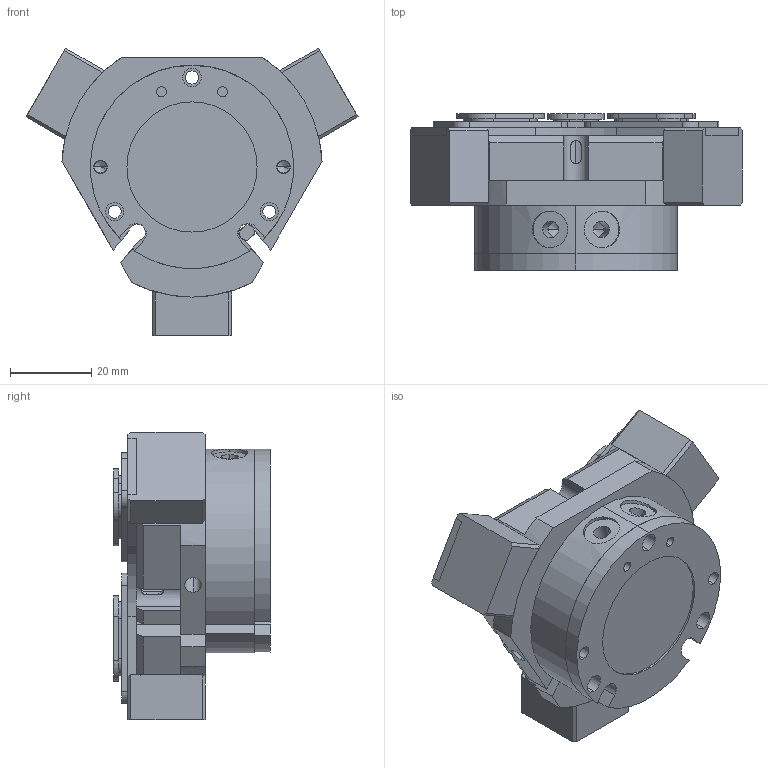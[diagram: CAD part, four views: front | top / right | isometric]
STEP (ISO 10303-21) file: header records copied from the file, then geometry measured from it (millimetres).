
FILE_DESCRIPTION (( 'STEP AP214' ), '1' );
FILE_NAME ('FCT 50A-1-SD.STEP', '2021-09-16T00:27:07', ( 'DEEP' ), ( 'Microsoft' ), 'SwSTEP 2.0', 'SolidWorks 2016', '' );
FILE_SCHEMA (( 'AUTOMOTIVE_DESIGN' ));
Length unit declared in the file: millimetre
Products named in the file (26): FCT 50A-1-002; FCT 50A-1-SD-004; FCT 50A-1-001; FCT 50A-1-SD-003; FCT 50A-1-003; FCT 50A-1-SD; FCT 50A-1-SD-002; FCT 50A-1-SD-001; FCT 50A-1-004
Assembly tree (17 placements, depth 3):
  FCT 50A-1-002
  FCT 50A-1-002
  FCT 50A-1-SD-004
  FCT 50A-1-001
  FCT 50A-1-SD-003
Bounding box: 81.63 x 38.5 x 70.69 mm (x, y, z)
Volume: 82921.5 mm3; surface area: 39490.4 mm2
Topology: 16 solids, 16 shells, 582 faces, 1526 edges, 984 vertices
Faces by surface type: plane 325, cylinder 203, cone 54
Entity records: 12548 total; most frequent: CARTESIAN_POINT 2494, DIRECTION 2028, ORIENTED_EDGE 1928, EDGE_CURVE 964, AXIS2_PLACEMENT_3D 706, VERTEX_POINT 632, LINE 616, VECTOR 616
